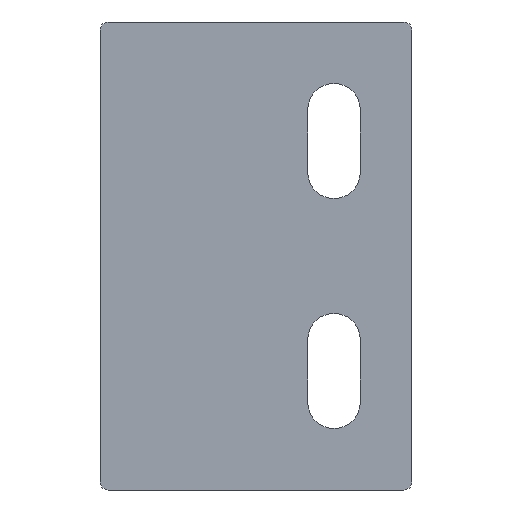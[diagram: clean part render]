
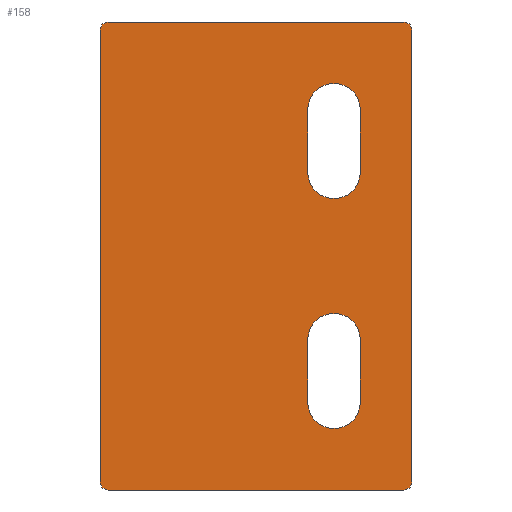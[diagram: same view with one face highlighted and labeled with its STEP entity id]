
A CAD part, front view. The second image highlights one B-rep face of the part: STEP entity #158.
In plain terms, the highlighted planar face has unit normal (0, -1, 0).
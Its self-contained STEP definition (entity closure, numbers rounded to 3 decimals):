
#38=FACE_BOUND('',#256,.T.);
#39=FACE_BOUND('',#257,.T.);
#40=FACE_BOUND('',#258,.T.);
#74=CIRCLE('',#703,1.6);
#83=CIRCLE('',#716,1.6);
#84=CIRCLE('',#718,1.6);
#86=CIRCLE('',#722,1.6);
#97=CIRCLE('',#738,0.5);
#101=CIRCLE('',#749,0.5);
#103=CIRCLE('',#753,0.5);
#115=CIRCLE('',#773,0.5);
#158=ADVANCED_FACE('',(#38,#39,#40),#170,.T.);
#170=PLANE('',#775);
#256=EDGE_LOOP('',(#433,#434,#435,#436,#437,#438,#439,#440));
#257=EDGE_LOOP('',(#441,#442,#443,#444));
#258=EDGE_LOOP('',(#445,#446,#447,#448));
#433=ORIENTED_EDGE('',*,*,#597,.T.);
#434=ORIENTED_EDGE('',*,*,#505,.T.);
#435=ORIENTED_EDGE('',*,*,#580,.T.);
#436=ORIENTED_EDGE('',*,*,#577,.F.);
#437=ORIENTED_EDGE('',*,*,#574,.T.);
#438=ORIENTED_EDGE('',*,*,#571,.T.);
#439=ORIENTED_EDGE('',*,*,#556,.T.);
#440=ORIENTED_EDGE('',*,*,#560,.T.);
#441=ORIENTED_EDGE('',*,*,#533,.T.);
#442=ORIENTED_EDGE('',*,*,#530,.T.);
#443=ORIENTED_EDGE('',*,*,#539,.T.);
#444=ORIENTED_EDGE('',*,*,#536,.T.);
#445=ORIENTED_EDGE('',*,*,#528,.T.);
#446=ORIENTED_EDGE('',*,*,#510,.T.);
#447=ORIENTED_EDGE('',*,*,#514,.T.);
#448=ORIENTED_EDGE('',*,*,#517,.T.);
#451=VERTEX_POINT('',#984);
#452=VERTEX_POINT('',#986);
#455=VERTEX_POINT('',#994);
#457=VERTEX_POINT('',#997);
#459=VERTEX_POINT('',#1003);
#461=VERTEX_POINT('',#1009);
#467=VERTEX_POINT('',#1082);
#469=VERTEX_POINT('',#1085);
#471=VERTEX_POINT('',#1091);
#473=VERTEX_POINT('',#1097);
#484=VERTEX_POINT('',#1194);
#485=VERTEX_POINT('',#1196);
#487=VERTEX_POINT('',#1202);
#494=VERTEX_POINT('',#1226);
#496=VERTEX_POINT('',#1232);
#498=VERTEX_POINT('',#1238);
#505=EDGE_CURVE('',#452,#451,#600,.T.);
#510=EDGE_CURVE('',#457,#455,#605,.T.);
#514=EDGE_CURVE('',#455,#459,#74,.T.);
#517=EDGE_CURVE('',#459,#461,#610,.T.);
#528=EDGE_CURVE('',#461,#457,#83,.T.);
#530=EDGE_CURVE('',#469,#467,#84,.T.);
#533=EDGE_CURVE('',#471,#469,#616,.T.);
#536=EDGE_CURVE('',#473,#471,#86,.T.);
#539=EDGE_CURVE('',#467,#473,#620,.T.);
#556=EDGE_CURVE('',#485,#484,#97,.T.);
#560=EDGE_CURVE('',#484,#487,#630,.T.);
#571=EDGE_CURVE('',#494,#485,#639,.T.);
#574=EDGE_CURVE('',#496,#494,#101,.T.);
#577=EDGE_CURVE('',#496,#498,#643,.T.);
#580=EDGE_CURVE('',#451,#498,#103,.T.);
#597=EDGE_CURVE('',#487,#452,#115,.T.);
#600=LINE('',#985,#651);
#605=LINE('',#996,#656);
#610=LINE('',#1011,#661);
#616=LINE('',#1090,#667);
#620=LINE('',#1102,#671);
#630=LINE('',#1203,#681);
#639=LINE('',#1225,#690);
#643=LINE('',#1237,#694);
#651=VECTOR('',#780,1.);
#656=VECTOR('',#787,1.);
#661=VECTOR('',#800,1.);
#667=VECTOR('',#836,1.);
#671=VECTOR('',#848,1.);
#681=VECTOR('',#888,1.);
#690=VECTOR('',#911,1.);
#694=VECTOR('',#923,1.);
#703=AXIS2_PLACEMENT_3D('',#1005,#793,#794);
#716=AXIS2_PLACEMENT_3D('',#1079,#824,#825);
#718=AXIS2_PLACEMENT_3D('',#1084,#829,#830);
#722=AXIS2_PLACEMENT_3D('',#1096,#841,#842);
#738=AXIS2_PLACEMENT_3D('',#1195,#881,#882);
#749=AXIS2_PLACEMENT_3D('',#1231,#917,#918);
#753=AXIS2_PLACEMENT_3D('',#1242,#929,#930);
#773=AXIS2_PLACEMENT_3D('',#1319,#973,#974);
#775=AXIS2_PLACEMENT_3D('',#1321,#977,#978);
#780=DIRECTION('',(-1.,0.,0.));
#787=DIRECTION('',(0.,0.,1.));
#793=DIRECTION('',(0.,1.,0.));
#794=DIRECTION('',(-1.,0.,0.));
#800=DIRECTION('',(0.,0.,-1.));
#824=DIRECTION('',(0.,1.,0.));
#825=DIRECTION('',(1.,0.,0.));
#829=DIRECTION('',(0.,1.,0.));
#830=DIRECTION('',(1.,0.,0.));
#836=DIRECTION('',(0.,0.,-1.));
#841=DIRECTION('',(0.,1.,0.));
#842=DIRECTION('',(-1.,0.,0.));
#848=DIRECTION('',(0.,0.,1.));
#881=DIRECTION('',(0.,-1.,0.));
#882=DIRECTION('',(0.,0.,-1.));
#888=DIRECTION('',(0.,0.,1.));
#911=DIRECTION('',(1.,0.,0.));
#917=DIRECTION('',(0.,-1.,0.));
#918=DIRECTION('',(-1.,0.,0.));
#923=DIRECTION('',(0.,0.,1.));
#929=DIRECTION('',(0.,-1.,0.));
#930=DIRECTION('',(0.,0.,1.));
#973=DIRECTION('',(0.,-1.,0.));
#974=DIRECTION('',(1.,0.,0.));
#977=DIRECTION('',(0.,-1.,0.));
#978=DIRECTION('',(1.,0.,0.));
#984=CARTESIAN_POINT('',(1.3,0.,14.25));
#985=CARTESIAN_POINT('',(19.3,0.,14.25));
#986=CARTESIAN_POINT('',(19.3,0.,14.25));
#994=CARTESIAN_POINT('',(13.45,0.,8.9));
#996=CARTESIAN_POINT('',(13.45,0.,5.1));
#997=CARTESIAN_POINT('',(13.45,0.,5.1));
#1003=CARTESIAN_POINT('',(16.65,0.,8.9));
#1005=CARTESIAN_POINT('',(15.05,0.,8.9));
#1009=CARTESIAN_POINT('',(16.65,0.,5.1));
#1011=CARTESIAN_POINT('',(16.65,0.,8.9));
#1079=CARTESIAN_POINT('',(15.05,0.,5.1));
#1082=CARTESIAN_POINT('',(13.45,0.,-8.9));
#1084=CARTESIAN_POINT('',(15.05,0.,-8.9));
#1085=CARTESIAN_POINT('',(16.65,0.,-8.9));
#1090=CARTESIAN_POINT('',(16.65,0.,-5.1));
#1091=CARTESIAN_POINT('',(16.65,0.,-5.1));
#1096=CARTESIAN_POINT('',(15.05,0.,-5.1));
#1097=CARTESIAN_POINT('',(13.45,0.,-5.1));
#1102=CARTESIAN_POINT('',(13.45,0.,-8.9));
#1194=CARTESIAN_POINT('',(19.8,0.,-13.75));
#1195=CARTESIAN_POINT('',(19.3,0.,-13.75));
#1196=CARTESIAN_POINT('',(19.3,0.,-14.25));
#1202=CARTESIAN_POINT('',(19.8,0.,13.75));
#1203=CARTESIAN_POINT('',(19.8,0.,-13.75));
#1225=CARTESIAN_POINT('',(1.3,0.,-14.25));
#1226=CARTESIAN_POINT('',(1.3,0.,-14.25));
#1231=CARTESIAN_POINT('',(1.3,0.,-13.75));
#1232=CARTESIAN_POINT('',(0.8,0.,-13.75));
#1237=CARTESIAN_POINT('',(0.8,0.,-13.75));
#1238=CARTESIAN_POINT('',(0.8,0.,13.75));
#1242=CARTESIAN_POINT('',(1.3,0.,13.75));
#1319=CARTESIAN_POINT('',(19.3,0.,13.75));
#1321=CARTESIAN_POINT('',(0.8,0.,-14.25));
